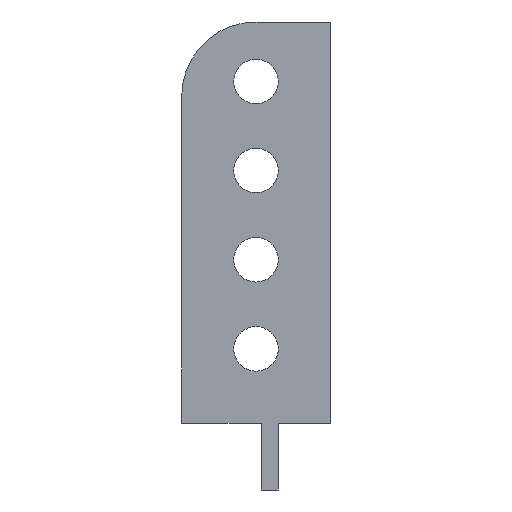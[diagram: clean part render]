
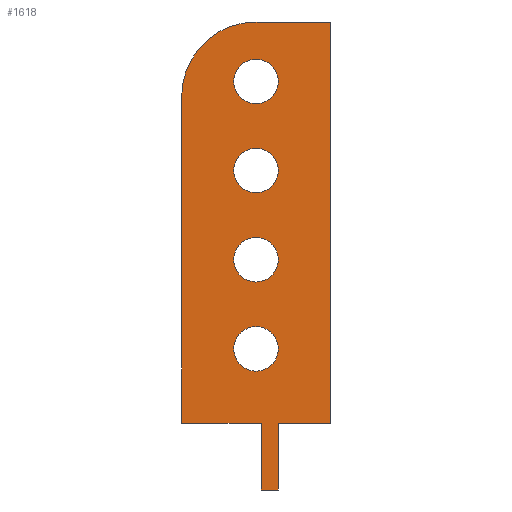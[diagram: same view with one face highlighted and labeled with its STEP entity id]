
A CAD part, left-side view. The second image highlights one B-rep face of the part: STEP entity #1618.
In plain terms, the highlighted planar face has unit normal (-1, 0, 0).
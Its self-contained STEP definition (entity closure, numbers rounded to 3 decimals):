
#48=FACE_BOUND('',#264,.T.);
#49=FACE_BOUND('',#265,.T.);
#50=FACE_BOUND('',#266,.T.);
#51=FACE_BOUND('',#267,.T.);
#72=PLANE('',#1743);
#157=FACE_OUTER_BOUND('',#263,.T.);
#263=EDGE_LOOP('',(#1469,#1470,#1471,#1472,#1473,#1474,#1475,#1476,#1477));
#264=EDGE_LOOP('',(#1478));
#265=EDGE_LOOP('',(#1479));
#266=EDGE_LOOP('',(#1480));
#267=EDGE_LOOP('',(#1481));
#285=CIRCLE('',#1685,1.5);
#286=CIRCLE('',#1687,1.5);
#287=CIRCLE('',#1689,1.5);
#288=CIRCLE('',#1691,1.5);
#289=CIRCLE('',#1693,5.);
#461=LINE('',#3278,#555);
#463=LINE('',#3282,#557);
#465=LINE('',#3286,#559);
#467=LINE('',#3290,#561);
#469=LINE('',#3294,#563);
#474=LINE('',#3304,#568);
#479=LINE('',#3805,#573);
#504=LINE('',#3873,#598);
#555=VECTOR('',#1917,10.);
#557=VECTOR('',#1921,10.);
#559=VECTOR('',#1925,10.);
#561=VECTOR('',#1929,10.);
#563=VECTOR('',#1933,10.);
#568=VECTOR('',#1940,10.);
#573=VECTOR('',#1947,10.);
#598=VECTOR('',#2016,10.);
#711=VERTEX_POINT('',#3255);
#712=VERTEX_POINT('',#3259);
#713=VERTEX_POINT('',#3263);
#714=VERTEX_POINT('',#3267);
#715=VERTEX_POINT('',#3271);
#716=VERTEX_POINT('',#3272);
#717=VERTEX_POINT('',#3277);
#718=VERTEX_POINT('',#3281);
#719=VERTEX_POINT('',#3285);
#720=VERTEX_POINT('',#3289);
#721=VERTEX_POINT('',#3293);
#723=VERTEX_POINT('',#3298);
#725=VERTEX_POINT('',#3302);
#893=EDGE_CURVE('',#711,#711,#285,.T.);
#895=EDGE_CURVE('',#712,#712,#286,.T.);
#897=EDGE_CURVE('',#713,#713,#287,.T.);
#899=EDGE_CURVE('',#714,#714,#288,.T.);
#900=EDGE_CURVE('',#715,#716,#289,.T.);
#903=EDGE_CURVE('',#717,#715,#461,.T.);
#905=EDGE_CURVE('',#718,#717,#463,.T.);
#907=EDGE_CURVE('',#719,#718,#465,.T.);
#909=EDGE_CURVE('',#720,#719,#467,.T.);
#911=EDGE_CURVE('',#721,#720,#469,.T.);
#916=EDGE_CURVE('',#723,#725,#474,.T.);
#927=EDGE_CURVE('',#723,#721,#479,.T.);
#962=EDGE_CURVE('',#725,#716,#504,.T.);
#1469=ORIENTED_EDGE('',*,*,#916,.T.);
#1470=ORIENTED_EDGE('',*,*,#962,.T.);
#1471=ORIENTED_EDGE('',*,*,#900,.F.);
#1472=ORIENTED_EDGE('',*,*,#903,.F.);
#1473=ORIENTED_EDGE('',*,*,#905,.F.);
#1474=ORIENTED_EDGE('',*,*,#907,.F.);
#1475=ORIENTED_EDGE('',*,*,#909,.F.);
#1476=ORIENTED_EDGE('',*,*,#911,.F.);
#1477=ORIENTED_EDGE('',*,*,#927,.F.);
#1478=ORIENTED_EDGE('',*,*,#893,.F.);
#1479=ORIENTED_EDGE('',*,*,#895,.F.);
#1480=ORIENTED_EDGE('',*,*,#897,.F.);
#1481=ORIENTED_EDGE('',*,*,#899,.F.);
#1618=ADVANCED_FACE('',(#157,#48,#49,#50,#51),#72,.T.);
#1685=AXIS2_PLACEMENT_3D('',#3257,#1892,#1893);
#1687=AXIS2_PLACEMENT_3D('',#3261,#1897,#1898);
#1689=AXIS2_PLACEMENT_3D('',#3265,#1902,#1903);
#1691=AXIS2_PLACEMENT_3D('',#3269,#1907,#1908);
#1693=AXIS2_PLACEMENT_3D('',#3273,#1911,#1912);
#1743=AXIS2_PLACEMENT_3D('',#6213,#2060,#2061);
#1892=DIRECTION('center_axis',(-1.,0.,0.));
#1893=DIRECTION('ref_axis',(0.,1.,0.));
#1897=DIRECTION('center_axis',(-1.,0.,0.));
#1898=DIRECTION('ref_axis',(0.,1.,0.));
#1902=DIRECTION('center_axis',(-1.,0.,0.));
#1903=DIRECTION('ref_axis',(0.,1.,0.));
#1907=DIRECTION('center_axis',(-1.,0.,0.));
#1908=DIRECTION('ref_axis',(0.,1.,0.));
#1911=DIRECTION('center_axis',(1.,0.,0.));
#1912=DIRECTION('ref_axis',(0.,1.,0.));
#1917=DIRECTION('',(0.,0.,1.));
#1921=DIRECTION('',(0.,1.,0.));
#1925=DIRECTION('',(0.,0.,1.));
#1929=DIRECTION('',(0.,1.,0.));
#1933=DIRECTION('',(0.,0.,-1.));
#1940=DIRECTION('',(0.,0.,1.));
#1947=DIRECTION('',(0.,1.,0.));
#2016=DIRECTION('',(0.,1.,0.));
#2060=DIRECTION('center_axis',(-1.,0.,0.));
#2061=DIRECTION('ref_axis',(0.,0.,1.));
#3255=CARTESIAN_POINT('',(-20.8,3.5,23.));
#3257=CARTESIAN_POINT('Origin',(-20.8,5.,23.));
#3259=CARTESIAN_POINT('',(-20.8,3.5,11.));
#3261=CARTESIAN_POINT('Origin',(-20.8,5.,11.));
#3263=CARTESIAN_POINT('',(-20.8,3.5,17.));
#3265=CARTESIAN_POINT('Origin',(-20.8,5.,17.));
#3267=CARTESIAN_POINT('',(-20.8,3.5,5.));
#3269=CARTESIAN_POINT('Origin',(-20.8,5.,5.));
#3271=CARTESIAN_POINT('',(-20.8,10.,22.));
#3272=CARTESIAN_POINT('',(-20.8,5.,27.));
#3273=CARTESIAN_POINT('Origin',(-20.8,5.,22.));
#3277=CARTESIAN_POINT('',(-20.8,10.,0.));
#3278=CARTESIAN_POINT('',(-20.8,10.,0.));
#3281=CARTESIAN_POINT('',(-20.8,4.65,0.));
#3282=CARTESIAN_POINT('',(-20.8,0.,0.));
#3285=CARTESIAN_POINT('',(-20.8,4.65,-4.5));
#3286=CARTESIAN_POINT('',(-20.8,4.65,-4.5));
#3289=CARTESIAN_POINT('',(-20.8,3.5,-4.5));
#3290=CARTESIAN_POINT('',(-20.8,3.5,-4.5));
#3293=CARTESIAN_POINT('',(-20.8,3.5,0.));
#3294=CARTESIAN_POINT('',(-20.8,3.5,0.));
#3298=CARTESIAN_POINT('',(-20.8,0.,0.));
#3302=CARTESIAN_POINT('',(-20.8,0.,27.));
#3304=CARTESIAN_POINT('',(-20.8,0.,0.));
#3805=CARTESIAN_POINT('',(-20.8,0.,0.));
#3873=CARTESIAN_POINT('',(-20.8,0.,27.));
#6213=CARTESIAN_POINT('Origin',(-20.8,0.,0.));
